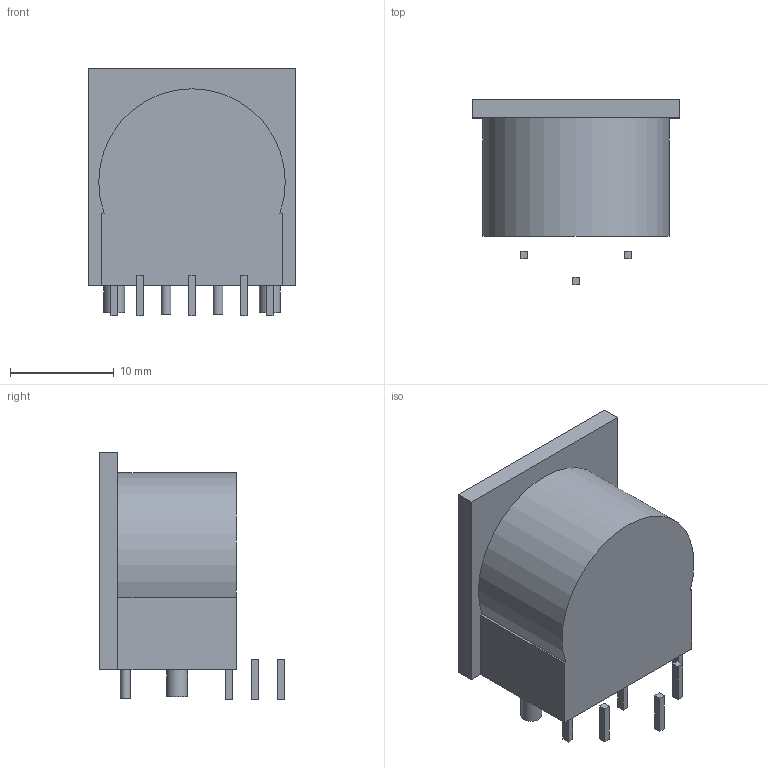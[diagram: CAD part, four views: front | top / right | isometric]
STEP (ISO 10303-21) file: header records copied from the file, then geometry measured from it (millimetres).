
FILE_DESCRIPTION(('Open CASCADE Model'),'2;1');
FILE_NAME('Open CASCADE Shape Model','2026-11-07T16:06:51',('Author'),( 'Open CASCADE'),'Open CASCADE STEP processor 7.9','Open CASCADE 7.9' ,'Unknown');
FILE_SCHEMA(('AUTOMOTIVE_DESIGN { 1 0 10303 214 1 1 1 1 }'));
Length unit declared in the file: millimetre
Products named in the file (11): DIN_61PC6F; DIN-housing; contact-insert; pin-1; pin-2; pin-3; pin-4; pin-5; pin-6; shell-tail-0; shell-tail-1
Assembly tree (10 placements, depth 2):
  DIN_61PC6F
    DIN-housing
    contact-insert
    pin-1
    pin-2
    pin-3
    pin-4
    pin-5
    pin-6
    shell-tail-0
    shell-tail-1
Bounding box: 20 x 17.85 x 23.9 mm (x, y, z)
Volume: 2774.5 mm3; surface area: 2891.7 mm2
Topology: 10 solids, 10 shells, 69 faces, 138 edges, 92 vertices
Faces by surface type: plane 56, cylinder 13
Full cylindrical faces by diameter (mm): 0.945 x2, 1.8 x6, 2.01 x2, 11 x1, 14 x1
Entity records: 3884 total; most frequent: CARTESIAN_POINT 662, DIRECTION 584, LINE 358, VECTOR 358, ORIENTED_EDGE 276, PCURVE 276, DEFINITIONAL_REPRESENTATION 276, EDGE_CURVE 138
